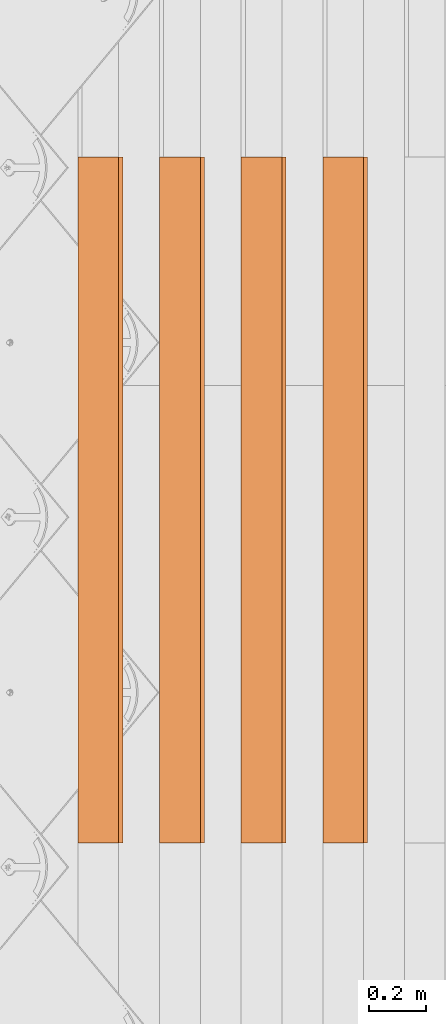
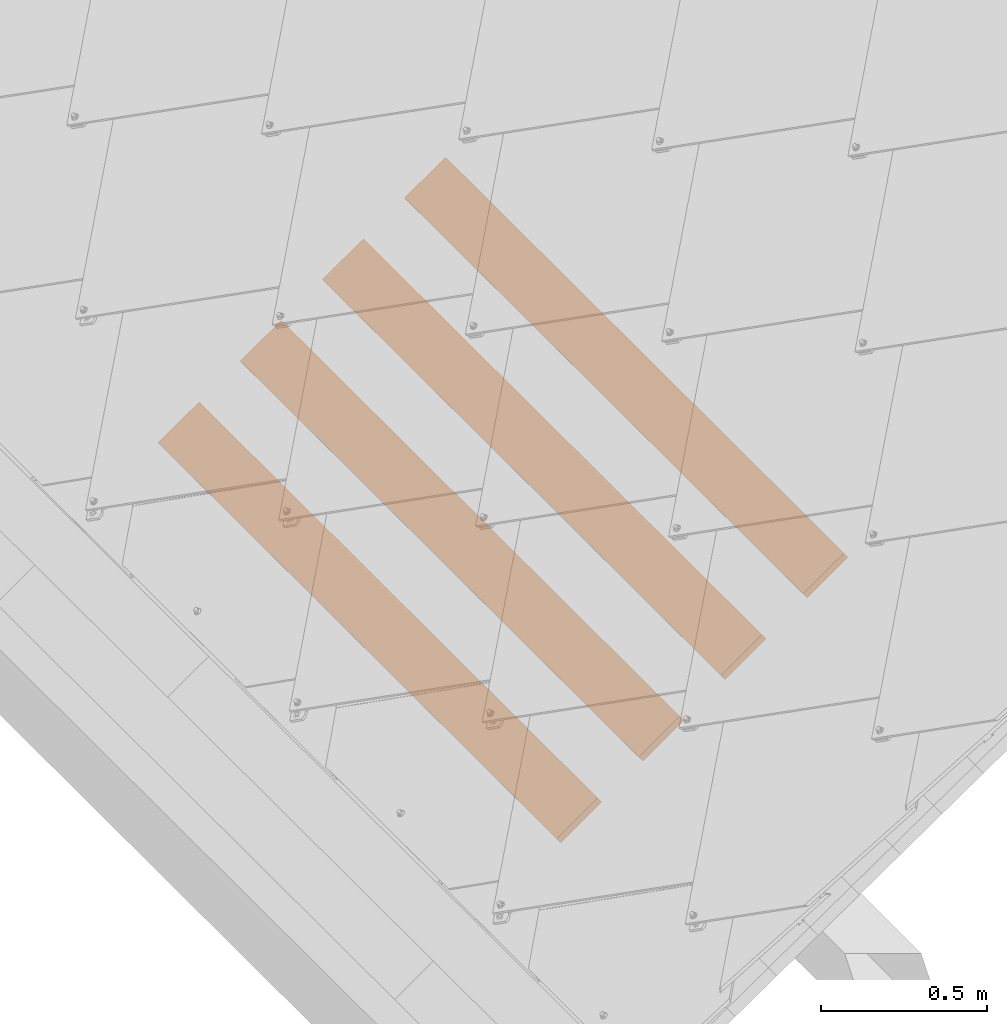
# One storey, part 50 of 151: 4 proxies, 1 element without a shape of its own.
"""IFC2X3 building model written with IfcOpenShell, lengths in millimetres."""

from ifc_helpers import new_model, entity, si_unit, converted_unit, derived_unit, direction, frame, frame_2d, origin, place, context, subcontext, project, spatial, rectangle, extrude, source, transform, mapped, material, type_object, type_shapes, element, aggregate, save


model = new_model("IFC2X3")

# Units and contexts
model_context = context("Model", 3, precision=0.01, world=origin(), true_north=direction((6.12303176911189e-17, 1.0)))
body_context = subcontext(model_context, "Body", "Model", "MODEL_VIEW")
ifc_project = project(units=[si_unit("LENGTHUNIT", "METRE", prefix="MILLI"), si_unit("AREAUNIT", "SQUARE_METRE"), si_unit("VOLUMEUNIT", "CUBIC_METRE"), converted_unit("PLANEANGLEUNIT", "DEGREE", entity("IfcRatioMeasure", 0.0174532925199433), si_unit("PLANEANGLEUNIT", "RADIAN"), dimensions=[0, 0, 0, 0, 0, 0, 0]), si_unit("MASSUNIT", "GRAM", prefix="KILO"), derived_unit("MASSDENSITYUNIT", [(si_unit("MASSUNIT", "GRAM", prefix="KILO"), 1), (si_unit("LENGTHUNIT", "METRE"), -3)]), si_unit("TIMEUNIT", "SECOND"), si_unit("FREQUENCYUNIT", "HERTZ"), si_unit("THERMODYNAMICTEMPERATUREUNIT", "DEGREE_CELSIUS"), derived_unit("THERMALTRANSMITTANCEUNIT", [(si_unit("MASSUNIT", "GRAM", prefix="KILO"), 1), (si_unit("THERMODYNAMICTEMPERATUREUNIT", "KELVIN"), -1), (si_unit("TIMEUNIT", "SECOND"), -3)]), derived_unit("VOLUMETRICFLOWRATEUNIT", [(si_unit("LENGTHUNIT", "METRE"), 3), (si_unit("TIMEUNIT", "SECOND"), -1)]), si_unit("ELECTRICCURRENTUNIT", "AMPERE"), si_unit("ELECTRICVOLTAGEUNIT", "VOLT"), si_unit("POWERUNIT", "WATT"), si_unit("FORCEUNIT", "NEWTON", prefix="KILO"), si_unit("ILLUMINANCEUNIT", "LUX"), si_unit("LUMINOUSFLUXUNIT", "LUMEN"), si_unit("LUMINOUSINTENSITYUNIT", "CANDELA"), derived_unit("USERDEFINED", [(si_unit("MASSUNIT", "GRAM", prefix="KILO"), -1), (si_unit("LENGTHUNIT", "METRE"), -2), (si_unit("TIMEUNIT", "SECOND"), 3), (si_unit("LUMINOUSFLUXUNIT", "LUMEN"), 1)]), derived_unit("LINEARVELOCITYUNIT", [(si_unit("LENGTHUNIT", "METRE"), 1), (si_unit("TIMEUNIT", "SECOND"), -1)]), si_unit("PRESSUREUNIT", "PASCAL"), derived_unit("USERDEFINED", [(si_unit("LENGTHUNIT", "METRE"), -2), (si_unit("MASSUNIT", "GRAM", prefix="KILO"), 1), (si_unit("TIMEUNIT", "SECOND"), -2)])], contexts=[model_context])

# Site, building, storey
site_placement = place(None, origin())
site = spatial("IfcSite", under=ifc_project, at=site_placement, Name="Default", CompositionType="ELEMENT")
building_placement = place(site_placement, origin())
building = spatial("IfcBuilding", under=site, at=building_placement, CompositionType="ELEMENT")
storey_placement = place(building_placement, origin())
storey = spatial("IfcBuildingStorey", under=building, at=storey_placement, Name="Level 1", CompositionType="ELEMENT", Elevation=0.0)

# Assembly, proxies
assembly_placement = place(storey_placement, origin())
assembly = element("IfcElementAssembly", 1, at=assembly_placement, inside=storey, Name="Structural Framing Assembly:Roof Construction Assembly", ObjectType="Structural Framing Assembly:Roof Construction Assembly", AssemblyPlace="NOTDEFINED", PredefinedType="USERDEFINED")
ifc_material = material(Name="Wood - Generic - Wood For Showcase")
building_element_proxy_type_1 = type_object("IfcBuildingElementProxyType", Name="Structural Framing 15", PredefinedType="NOTDEFINED", material=ifc_material)
shared_shape_1 = source(origin(), body_context, "Body", "SweptSolid", [
    extrude(rectangle(XDim=24.9999999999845, YDim=174.344679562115, at=frame_2d((-1.77635683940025e-13, -4.54747350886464e-13), x_axis=(0.0, 1.0))), frame((1128.20180147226, 1525.55080214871, 2760.23940055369), z_axis=(0.0, 1.0, 0.0), x_axis=(-0.819152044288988, 0.0, -0.573576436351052)), (0.0, 0.0, 1.0), 2400.0),
])
type_shapes(building_element_proxy_type_1, [shared_shape_1])
proxy_1_placement = place(assembly_placement, frame((-2227.54893967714, -2470.0, -1600.0)))
proxy_1 = element("IfcBuildingElementProxy", 2, at=proxy_1_placement, type_object=building_element_proxy_type_1, material=ifc_material, Name="Structural Framing 96:Structural Framing 15", ObjectType="Structural Framing 96:Structural Framing 15", context=body_context, shape_type="MappedRepresentation", body=[
    mapped(shared_shape_1, transform((0.0, 0.0, 0.0), scale=1.0)),
])
building_element_proxy_type_2 = type_object("IfcBuildingElementProxyType", Name="Structural Framing 15", PredefinedType="NOTDEFINED", material=ifc_material)
shared_shape_2 = source(origin(), body_context, "Body", "SweptSolid", [
    extrude(rectangle(XDim=24.9999999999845, YDim=174.344679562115, at=frame_2d((-1.77635683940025e-13, -4.54747350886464e-13), x_axis=(0.0, 1.0))), frame((1128.20180147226, 1525.55080214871, 2760.23940055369), z_axis=(0.0, 1.0, 0.0), x_axis=(-0.819152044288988, 0.0, -0.573576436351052)), (0.0, 0.0, 1.0), 2400.0),
])
type_shapes(building_element_proxy_type_2, [shared_shape_2])
proxy_2_placement = place(assembly_placement, frame((-2513.17854102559, -2470.0, -1800.0)))
proxy_2 = element("IfcBuildingElementProxy", 3, at=proxy_2_placement, type_object=building_element_proxy_type_2, material=ifc_material, Name="Structural Framing 106:Structural Framing 15", ObjectType="Structural Framing 106:Structural Framing 15", context=body_context, shape_type="MappedRepresentation", body=[
    mapped(shared_shape_2, transform((0.0, 0.0, 0.0), scale=1.0)),
])
building_element_proxy_type_3 = type_object("IfcBuildingElementProxyType", Name="Structural Framing 15", PredefinedType="NOTDEFINED", material=ifc_material)
shared_shape_3 = source(origin(), body_context, "Body", "SweptSolid", [
    extrude(rectangle(XDim=24.9999999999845, YDim=174.344679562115, at=frame_2d((-1.77635683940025e-13, -4.54747350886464e-13), x_axis=(0.0, 1.0))), frame((1128.20180147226, 1525.55080214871, 2760.23940055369), z_axis=(0.0, 1.0, 0.0), x_axis=(-0.819152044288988, 0.0, -0.573576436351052)), (0.0, 0.0, 1.0), 2400.0),
])
type_shapes(building_element_proxy_type_3, [shared_shape_3])
proxy_3_placement = place(assembly_placement, frame((-2798.80814237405, -2470.0, -2000.0)))
proxy_3 = element("IfcBuildingElementProxy", 4, at=proxy_3_placement, type_object=building_element_proxy_type_3, material=ifc_material, Name="Structural Framing 116:Structural Framing 15", ObjectType="Structural Framing 116:Structural Framing 15", context=body_context, shape_type="MappedRepresentation", body=[
    mapped(shared_shape_3, transform((0.0, 0.0, 0.0), scale=1.0)),
])
building_element_proxy_type_4 = type_object("IfcBuildingElementProxyType", Name="Structural Framing 15", PredefinedType="NOTDEFINED", material=ifc_material)
shared_shape_4 = source(origin(), body_context, "Body", "SweptSolid", [
    extrude(rectangle(XDim=24.9999999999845, YDim=174.344679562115, at=frame_2d((-1.77635683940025e-13, -4.54747350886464e-13), x_axis=(0.0, 1.0))), frame((1128.20180147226, 1525.55080214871, 2760.23940055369), z_axis=(0.0, 1.0, 0.0), x_axis=(-0.819152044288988, 0.0, -0.573576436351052)), (0.0, 0.0, 1.0), 2400.0),
])
type_shapes(building_element_proxy_type_4, [shared_shape_4])
proxy_4_placement = place(assembly_placement, frame((-3084.43774372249, -2470.0, -2200.0)))
proxy_4 = element("IfcBuildingElementProxy", 5, at=proxy_4_placement, type_object=building_element_proxy_type_4, material=ifc_material, Name="Structural Framing 126:Structural Framing 15", ObjectType="Structural Framing 126:Structural Framing 15", context=body_context, shape_type="MappedRepresentation", body=[
    mapped(shared_shape_4, transform((0.0, 0.0, 0.0), scale=1.0)),
])
aggregate(assembly, [proxy_1, proxy_2, proxy_3, proxy_4])

save(model, "model.ifc")
